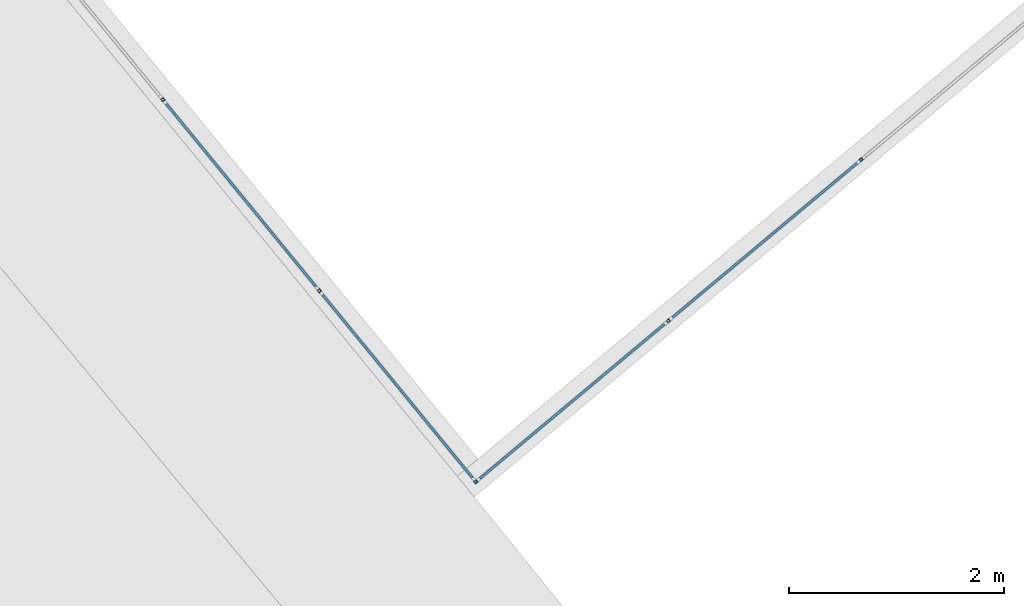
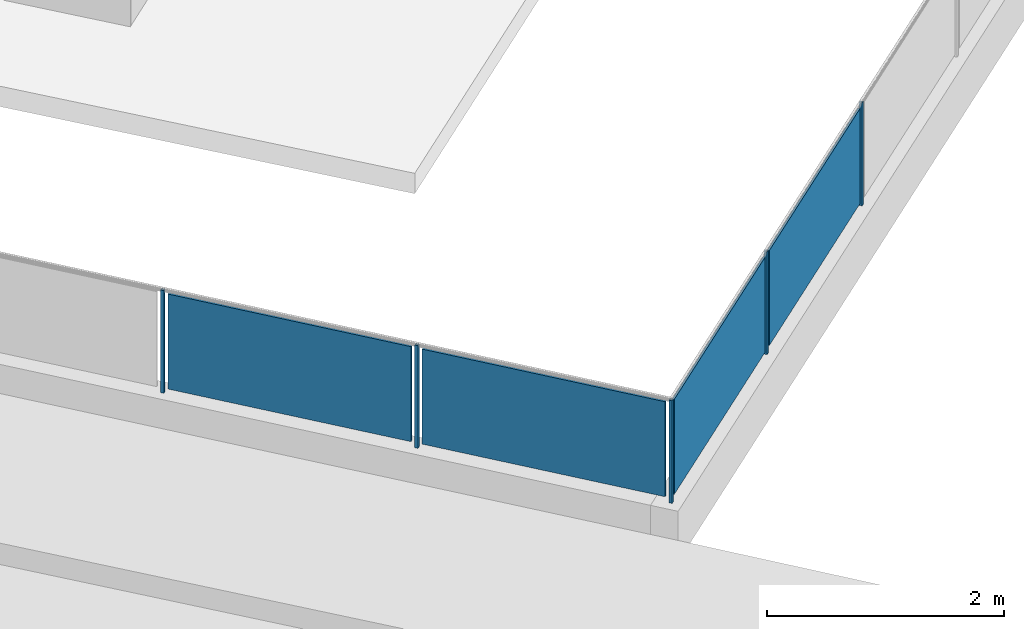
# One storey, part 22 of 75: 9 building element parts, 1 element without a shape of its own.
"""IFC4 building model written with IfcOpenShell, lengths in metres."""

from ifc_helpers import new_model, entity, si_unit, converted_unit, derived_unit, direction, frame, origin_with_axes, place, context, subcontext, project, spatial, polygons, material, type_object, element, aggregate, save


model = new_model("IFC4")

# Units and contexts
model_context = context("Model", 3, precision=1e-05, world=origin_with_axes(), true_north=direction((0.0, 1.0)))
body_context = subcontext(model_context, "Body", "Model", "MODEL_VIEW")
ifc_project = project(units=[si_unit("LENGTHUNIT", "METRE"), si_unit("AREAUNIT", "SQUARE_METRE"), si_unit("VOLUMEUNIT", "CUBIC_METRE"), converted_unit("PLANEANGLEUNIT", "DEGREE", entity("IfcPlaneAngleMeasure", 0.0174532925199), si_unit("PLANEANGLEUNIT", "RADIAN"), dimensions=[0, 0, 0, 0, 0, 0, 0]), converted_unit("TIMEUNIT", "Year", entity("IfcTimeMeasure", 31556926.0), si_unit("TIMEUNIT", "SECOND"), dimensions=[0, 0, 1, 0, 0, 0, 0]), si_unit("MASSUNIT", "GRAM", prefix="KILO"), si_unit("THERMODYNAMICTEMPERATUREUNIT", "DEGREE_CELSIUS"), si_unit("LUMINOUSINTENSITYUNIT", "LUMEN"), si_unit("ENERGYUNIT", "JOULE", prefix="MEGA"), derived_unit("THERMALCONDUCTANCEUNIT", [(si_unit("POWERUNIT", "WATT"), 1), (si_unit("LENGTHUNIT", "METRE"), -1), (si_unit("THERMODYNAMICTEMPERATUREUNIT", "KELVIN"), -1)]), derived_unit("SPECIFICHEATCAPACITYUNIT", [(si_unit("ENERGYUNIT", "JOULE"), 1), (si_unit("MASSUNIT", "GRAM", prefix="KILO"), -1), (si_unit("THERMODYNAMICTEMPERATUREUNIT", "KELVIN"), -1)]), derived_unit("MASSDENSITYUNIT", [(si_unit("MASSUNIT", "GRAM", prefix="KILO"), 1), (si_unit("VOLUMEUNIT", "CUBIC_METRE"), -1)])], contexts=[model_context])

# Site, building, storey
site_placement = place(None, frame((-0.00153261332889, -0.00661245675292, 0.0), z_axis=(0.0, 0.0, 1.0), x_axis=(1.0, 0.0, 0.0)))
site = spatial("IfcSite", under=ifc_project, at=site_placement, Name="Gelände", CompositionType="ELEMENT")
building_placement = place(site_placement, origin_with_axes())
building = spatial("IfcBuilding", under=site, at=building_placement, Name="Gebäude", CompositionType="ELEMENT")
storey_placement = place(building_placement, frame((0.0, 0.0, -0.22), z_axis=(0.0, 0.0, 1.0), x_axis=(1.0, 0.0, 0.0)))
storey = spatial("IfcBuildingStorey", under=building, at=storey_placement, Name="EG", CompositionType="ELEMENT", Elevation=-0.22)

# Railing, building element parts
railing_type = type_object("IfcRailingType", Name="Geländerart", PredefinedType="NOTDEFINED")
railing_placement = place(storey_placement, frame((-12.1608341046, 23.557810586, 0.523948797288), z_axis=(0.0, 0.0, 1.0), x_axis=(1.0, 0.0, 0.0)))
railing = element("IfcRailing", 1, at=railing_placement, inside=storey, type_object=railing_type, Name="Geländer - 001", PredefinedType="NOTDEFINED")
ifc_material_1 = material(Name="Aluminium")
building_element_part_1_placement = place(railing_placement, origin_with_axes())
building_element_part_1 = element("IfcBuildingElementPart", 2, at=building_element_part_1_placement, material=ifc_material_1, Name="Aluminium", PredefinedType="NOTDEFINED", context=body_context, shape_type="Tessellation", body=[
    polygons([(12.1736460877, -23.4307967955, 0.0), (12.1968587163, -23.4117922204, 0.0), (12.1968587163, -23.4117922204, 1.06), (12.1736460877, -23.4307967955, 1.06), (12.1546415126, -23.4075841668, 0.0), (12.1778541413, -23.3885795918, 0.0), (12.1743474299, -23.4237605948, 0.0), (12.1898225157, -23.4110908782, 0.0), (12.177152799, -23.3956157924, 0.0), (12.1616777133, -23.4082855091, 0.0), (12.1778541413, -23.3885795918, 1.06), (12.1546415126, -23.4075841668, 1.06), (12.1743474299, -23.4237605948, 1.06), (12.1616777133, -23.4082855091, 1.06), (12.177152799, -23.3956157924, 1.06), (12.1898225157, -23.4110908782, 1.06)], [[[1, 2, 3, 4]], [[1, 5, 6, 2], [7, 8, 9, 10]], [[2, 6, 11, 3]], [[4, 3, 11, 12], [13, 14, 15, 16]], [[5, 1, 4, 12]], [[6, 5, 12, 11]], [[8, 7, 13, 16]], [[9, 8, 16, 15]], [[10, 9, 15, 14]], [[7, 10, 14, 13]]], closed=True),
])
building_element_part_2_placement = place(railing_placement, origin_with_axes())
building_element_part_2 = element("IfcBuildingElementPart", 3, at=building_element_part_2_placement, material=ifc_material_1, Name="Aluminium", PredefinedType="NOTDEFINED", context=body_context, shape_type="Tessellation", body=[
    polygons([(9.26511726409, -19.8782522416, 0.0), (9.28832989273, -19.8592476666, 0.0), (9.28832989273, -19.8592476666, 1.06), (9.26511726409, -19.8782522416, 1.06), (9.24611268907, -19.855039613, 0.0), (9.26932531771, -19.836035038, 0.0), (9.26581860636, -19.871216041, 0.0), (9.28129369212, -19.8585463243, 0.0), (9.26862397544, -19.8430712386, 0.0), (9.25314888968, -19.8557409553, 0.0), (9.26932531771, -19.836035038, 1.06), (9.24611268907, -19.855039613, 1.06), (9.26581860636, -19.871216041, 1.06), (9.25314888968, -19.8557409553, 1.06), (9.26862397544, -19.8430712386, 1.06), (9.28129369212, -19.8585463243, 1.06)], [[[1, 2, 3, 4]], [[1, 5, 6, 2], [7, 8, 9, 10]], [[2, 6, 11, 3]], [[4, 3, 11, 12], [13, 14, 15, 16]], [[5, 1, 4, 12]], [[6, 5, 12, 11]], [[8, 7, 13, 16]], [[9, 8, 16, 15]], [[10, 9, 15, 14]], [[7, 10, 14, 13]]], closed=True),
])
ifc_material_2 = material(Name="Zaun")
building_element_part_3_placement = place(railing_placement, origin_with_axes())
building_element_part_3 = element("IfcBuildingElementPart", 4, at=building_element_part_3_placement, material=ifc_material_2, Name="Zaun", PredefinedType="NOTDEFINED", context=body_context, shape_type="Tessellation", body=[
    polygons([(10.6975489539, -21.588393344, 0.05), (9.30663312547, -19.8894964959, 0.05), (9.30663312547, -19.8894964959, 1.03), (10.6975489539, -21.588393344, 1.03), (9.29115803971, -19.9021662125, 0.05), (10.6820738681, -21.6010630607, 0.05), (9.29115803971, -19.9021662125, 1.03), (10.6820738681, -21.6010630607, 1.03)], [[[1, 2, 3, 4]], [[5, 2, 1, 6]], [[7, 3, 2, 5]], [[4, 3, 7, 8]], [[1, 4, 8, 6]], [[7, 5, 6, 8]]], closed=True),
])
building_element_part_4_placement = place(railing_placement, origin_with_axes())
building_element_part_4 = element("IfcBuildingElementPart", 5, at=building_element_part_4_placement, material=ifc_material_1, Name="Aluminium", PredefinedType="NOTDEFINED", context=body_context, shape_type="Tessellation", body=[
    polygons([(10.7193816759, -21.6545245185, 0.0), (10.7425943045, -21.6355199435, 0.0), (10.7425943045, -21.6355199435, 1.06), (10.7193816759, -21.6545245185, 1.06), (10.7003771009, -21.6313118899, 0.0), (10.7235897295, -21.6123073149, 0.0), (10.7200830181, -21.6474883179, 0.0), (10.7355581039, -21.6348186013, 0.0), (10.7228883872, -21.6193435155, 0.0), (10.7074133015, -21.6320132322, 0.0), (10.7235897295, -21.6123073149, 1.06), (10.7003771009, -21.6313118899, 1.06), (10.7200830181, -21.6474883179, 1.06), (10.7074133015, -21.6320132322, 1.06), (10.7228883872, -21.6193435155, 1.06), (10.7355581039, -21.6348186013, 1.06)], [[[1, 2, 3, 4]], [[1, 5, 6, 2], [7, 8, 9, 10]], [[2, 6, 11, 3]], [[4, 3, 11, 12], [13, 14, 15, 16]], [[5, 1, 4, 12]], [[6, 5, 12, 11]], [[8, 7, 13, 16]], [[9, 8, 16, 15]], [[10, 9, 15, 14]], [[7, 10, 14, 13]]], closed=True),
])
building_element_part_5_placement = place(railing_placement, origin_with_axes())
building_element_part_5 = element("IfcBuildingElementPart", 6, at=building_element_part_5_placement, material=ifc_material_2, Name="Zaun", PredefinedType="NOTDEFINED", context=body_context, shape_type="Tessellation", body=[
    polygons([(12.1518133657, -23.3646656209, 0.05), (10.7608975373, -21.6657687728, 0.05), (10.7608975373, -21.6657687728, 1.03), (12.1518133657, -23.3646656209, 1.03), (10.7454224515, -21.6784384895, 0.05), (12.1363382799, -23.3773353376, 0.05), (10.7454224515, -21.6784384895, 1.03), (12.1363382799, -23.3773353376, 1.03)], [[[1, 2, 3, 4]], [[5, 2, 1, 6]], [[7, 3, 2, 5]], [[4, 3, 7, 8]], [[1, 4, 8, 6]], [[7, 5, 6, 8]]], closed=True),
])
building_element_part_6_placement = place(railing_placement, origin_with_axes())
building_element_part_6 = element("IfcBuildingElementPart", 7, at=building_element_part_6_placement, material=ifc_material_2, Name="Zaun", PredefinedType="NOTDEFINED", context=body_context, shape_type="Tessellation", body=[
    polygons([(13.9218834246, -21.9373452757, 0.05), (12.2077030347, -23.3699514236, 0.05), (12.2077030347, -23.3699514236, 1.03), (13.9218834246, -21.9373452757, 1.03), (12.2205284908, -23.3852976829, 0.05), (13.9347088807, -21.952691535, 0.05), (12.2205284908, -23.3852976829, 1.03), (13.9347088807, -21.952691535, 1.03)], [[[1, 2, 3, 4]], [[5, 2, 1, 6]], [[7, 3, 2, 5]], [[4, 3, 7, 8]], [[1, 4, 8, 6]], [[7, 5, 6, 8]]], closed=True),
])
building_element_part_7_placement = place(railing_placement, origin_with_axes())
building_element_part_7 = element("IfcBuildingElementPart", 8, at=building_element_part_7_placement, material=ifc_material_1, Name="Aluminium", PredefinedType="NOTDEFINED", context=body_context, shape_type="Tessellation", body=[
    polygons([(13.9877905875, -21.9148453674, 0.0), (13.9685524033, -21.8918259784, 0.0), (13.9685524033, -21.8918259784, 1.06), (13.9877905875, -21.9148453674, 1.06), (13.9647711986, -21.9340835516, 0.0), (13.9455330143, -21.9110641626, 0.0), (13.9807476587, -21.9142151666, 0.0), (13.9679222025, -21.8988689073, 0.0), (13.9525759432, -21.9116943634, 0.0), (13.9654013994, -21.9270406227, 0.0), (13.9455330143, -21.9110641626, 1.06), (13.9647711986, -21.9340835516, 1.06), (13.9807476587, -21.9142151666, 1.06), (13.9654013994, -21.9270406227, 1.06), (13.9525759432, -21.9116943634, 1.06), (13.9679222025, -21.8988689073, 1.06)], [[[1, 2, 3, 4]], [[1, 5, 6, 2], [7, 8, 9, 10]], [[2, 6, 11, 3]], [[4, 3, 11, 12], [13, 14, 15, 16]], [[5, 1, 4, 12]], [[6, 5, 12, 11]], [[8, 7, 13, 16]], [[9, 8, 16, 15]], [[10, 9, 15, 14]], [[7, 10, 14, 13]]], closed=True),
])
building_element_part_8_placement = place(railing_placement, origin_with_axes())
building_element_part_8 = element("IfcBuildingElementPart", 9, at=building_element_part_8_placement, material=ifc_material_2, Name="Zaun", PredefinedType="NOTDEFINED", context=body_context, shape_type="Tessellation", body=[
    polygons([(15.7127951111, -20.4406118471, 0.05), (13.9986147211, -21.873217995, 0.05), (13.9986147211, -21.873217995, 1.03), (15.7127951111, -20.4406118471, 1.03), (14.0114401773, -21.8885642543, 0.05), (15.7256205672, -20.4559581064, 0.05), (14.0114401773, -21.8885642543, 1.03), (15.7256205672, -20.4559581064, 1.03)], [[[1, 2, 3, 4]], [[5, 2, 1, 6]], [[7, 3, 2, 5]], [[4, 3, 7, 8]], [[1, 4, 8, 6]], [[7, 5, 6, 8]]], closed=True),
])
building_element_part_9_placement = place(railing_placement, origin_with_axes())
building_element_part_9 = element("IfcBuildingElementPart", 10, at=building_element_part_9_placement, material=ifc_material_1, Name="Aluminium", PredefinedType="NOTDEFINED", context=body_context, shape_type="Tessellation", body=[
    polygons([(15.778702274, -20.4181119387, 0.0), (15.7594640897, -20.3950925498, 0.0), (15.7594640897, -20.3950925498, 1.06), (15.778702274, -20.4181119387, 1.06), (15.755682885, -20.437350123, 0.0), (15.7364447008, -20.414330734, 0.0), (15.7716593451, -20.4174817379, 0.0), (15.758833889, -20.4021354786, 0.0), (15.7434876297, -20.4149609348, 0.0), (15.7563130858, -20.4303071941, 0.0), (15.7364447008, -20.414330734, 1.06), (15.755682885, -20.437350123, 1.06), (15.7716593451, -20.4174817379, 1.06), (15.7563130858, -20.4303071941, 1.06), (15.7434876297, -20.4149609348, 1.06), (15.758833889, -20.4021354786, 1.06)], [[[1, 2, 3, 4]], [[1, 5, 6, 2], [7, 8, 9, 10]], [[2, 6, 11, 3]], [[4, 3, 11, 12], [13, 14, 15, 16]], [[5, 1, 4, 12]], [[6, 5, 12, 11]], [[8, 7, 13, 16]], [[9, 8, 16, 15]], [[10, 9, 15, 14]], [[7, 10, 14, 13]]], closed=True),
])
aggregate(railing, [building_element_part_1, building_element_part_2, building_element_part_3, building_element_part_4, building_element_part_5, building_element_part_6, building_element_part_7, building_element_part_8, building_element_part_9])

save(model, "model.ifc")
